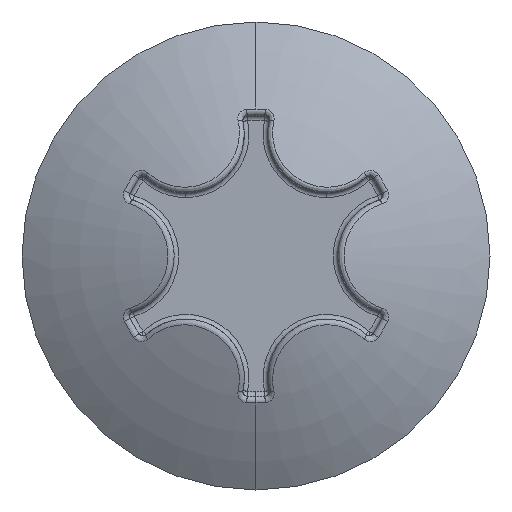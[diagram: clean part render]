
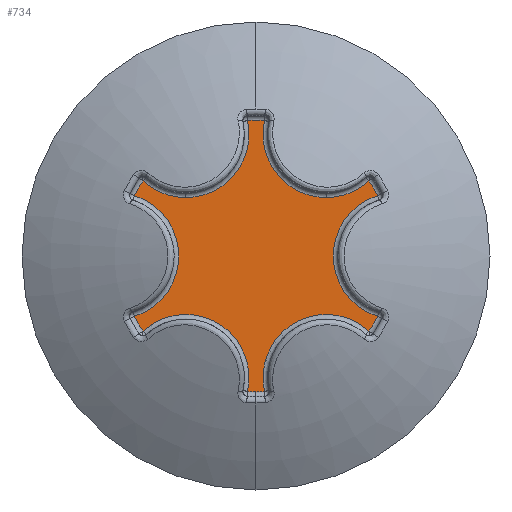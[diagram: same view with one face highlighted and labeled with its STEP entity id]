
A CAD part, left-side view. The second image highlights one B-rep face of the part: STEP entity #734.
In plain terms, the highlighted planar face has unit normal (-1, 0, 0).
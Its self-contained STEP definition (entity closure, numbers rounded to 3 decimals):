
#15 = AXIS2_PLACEMENT_3D ( 'NONE', #1366, #3339, #1662 ) ;
#42 = CIRCLE ( 'NONE', #1055, 1.35 ) ;
#49 = DIRECTION ( 'NONE',  ( 0., 0., -1. ) ) ;
#81 = CIRCLE ( 'NONE', #1164, 2.9 ) ;
#106 = DIRECTION ( 'NONE',  ( 1., 0., 0. ) ) ;
#143 = CARTESIAN_POINT ( 'NONE',  ( 1.5, 3., 0. ) ) ;
#171 = CIRCLE ( 'NONE', #775, 2.9 ) ;
#181 = EDGE_CURVE ( 'NONE', #1066, #1205, #2168, .T. ) ;
#189 = EDGE_LOOP ( 'NONE', ( #1249, #284, #1644, #255, #598, #750, #883, #1913, #312, #3684, #3181, #3588, #3453, #3506, #1455 ) ) ;
#205 = VERTEX_POINT ( 'NONE', #2949 ) ;
#255 = ORIENTED_EDGE ( 'NONE', *, *, #2817, .T. ) ;
#272 = CARTESIAN_POINT ( 'NONE',  ( 1.5, -0.183, -2.894 ) ) ;
#284 = ORIENTED_EDGE ( 'NONE', *, *, #623, .T. ) ;
#312 = ORIENTED_EDGE ( 'NONE', *, *, #1273, .T. ) ;
#326 = VERTEX_POINT ( 'NONE', #1025 ) ;
#336 = VERTEX_POINT ( 'NONE', #1626 ) ;
#380 = DIRECTION ( 'NONE',  ( 0., 0., -1. ) ) ;
#404 = AXIS2_PLACEMENT_3D ( 'NONE', #3561, #2658, #2733 ) ;
#427 = DIRECTION ( 'NONE',  ( 1., 0., 0. ) ) ;
#444 = CARTESIAN_POINT ( 'NONE',  ( 1.5, 0., -2.9 ) ) ;
#489 = AXIS2_PLACEMENT_3D ( 'NONE', #1837, #106, #2121 ) ;
#492 = CARTESIAN_POINT ( 'NONE',  ( 1.5, -2.415, -1.605 ) ) ;
#518 = CIRCLE ( 'NONE', #489, 1.35 ) ;
#520 = CIRCLE ( 'NONE', #2742, 1.35 ) ;
#547 = CARTESIAN_POINT ( 'NONE',  ( 1.5, 1.5, 2.598 ) ) ;
#550 = CARTESIAN_POINT ( 'NONE',  ( 1.5, 1.5, 2.598 ) ) ;
#595 = VERTEX_POINT ( 'NONE', #3652 ) ;
#598 = ORIENTED_EDGE ( 'NONE', *, *, #1831, .T. ) ;
#608 = EDGE_CURVE ( 'NONE', #2486, #595, #2122, .T. ) ;
#623 = EDGE_CURVE ( 'NONE', #1461, #205, #3443, .T. ) ;
#630 = VERTEX_POINT ( 'NONE', #2105 ) ;
#655 = CARTESIAN_POINT ( 'NONE',  ( 1.5, 0., 0. ) ) ;
#711 = DIRECTION ( 'NONE',  ( -1., 0., 0. ) ) ;
#728 = EDGE_CURVE ( 'NONE', #326, #3440, #3349, .T. ) ;
#731 = DIRECTION ( 'NONE',  ( 1., 0., 0. ) ) ;
#734 = ADVANCED_FACE ( 'NONE', ( #2780 ), #2252, .F. ) ;
#750 = ORIENTED_EDGE ( 'NONE', *, *, #1612, .T. ) ;
#775 = AXIS2_PLACEMENT_3D ( 'NONE', #655, #956, #2385 ) ;
#793 = CARTESIAN_POINT ( 'NONE',  ( 1.5, 0., 0. ) ) ;
#802 = AXIS2_PLACEMENT_3D ( 'NONE', #143, #731, #380 ) ;
#817 = CARTESIAN_POINT ( 'NONE',  ( 1.5, -1.5, 2.598 ) ) ;
#850 = DIRECTION ( 'NONE',  ( 0., 0., -1. ) ) ;
#853 = DIRECTION ( 'NONE',  ( 0., 0., -1. ) ) ;
#883 = ORIENTED_EDGE ( 'NONE', *, *, #181, .T. ) ;
#889 = CIRCLE ( 'NONE', #3212, 1.35 ) ;
#937 = CARTESIAN_POINT ( 'NONE',  ( 1.5, -1.5, 1.248 ) ) ;
#956 = DIRECTION ( 'NONE',  ( -1., 0., 0. ) ) ;
#996 = DIRECTION ( 'NONE',  ( 0., 0., -1. ) ) ;
#1016 = DIRECTION ( 'NONE',  ( -1., 0., 0. ) ) ;
#1025 = CARTESIAN_POINT ( 'NONE',  ( 1.5, -0.183, 2.894 ) ) ;
#1055 = AXIS2_PLACEMENT_3D ( 'NONE', #3276, #427, #2748 ) ;
#1066 = VERTEX_POINT ( 'NONE', #272 ) ;
#1071 = CARTESIAN_POINT ( 'NONE',  ( 1.5, 2.598, 1.289 ) ) ;
#1094 = CARTESIAN_POINT ( 'NONE',  ( 1.5, -2.598, 1.289 ) ) ;
#1121 = DIRECTION ( 'NONE',  ( 0., 0., -1. ) ) ;
#1164 = AXIS2_PLACEMENT_3D ( 'NONE', #2707, #1016, #3003 ) ;
#1201 = AXIS2_PLACEMENT_3D ( 'NONE', #2796, #2529, #2215 ) ;
#1205 = VERTEX_POINT ( 'NONE', #492 ) ;
#1249 = ORIENTED_EDGE ( 'NONE', *, *, #1867, .T. ) ;
#1263 = CARTESIAN_POINT ( 'NONE',  ( 1.5, -1.5, -2.598 ) ) ;
#1273 = EDGE_CURVE ( 'NONE', #336, #2486, #42, .T. ) ;
#1366 = CARTESIAN_POINT ( 'NONE',  ( 1.5, -1.5, 2.598 ) ) ;
#1455 = ORIENTED_EDGE ( 'NONE', *, *, #2114, .T. ) ;
#1461 = VERTEX_POINT ( 'NONE', #1071 ) ;
#1463 = CARTESIAN_POINT ( 'NONE',  ( 1.5, 2.415, -1.605 ) ) ;
#1530 = AXIS2_PLACEMENT_3D ( 'NONE', #1263, #2136, #2939 ) ;
#1612 = EDGE_CURVE ( 'NONE', #3271, #1066, #171, .T. ) ;
#1626 = CARTESIAN_POINT ( 'NONE',  ( 1.5, -2.598, -1.289 ) ) ;
#1644 = ORIENTED_EDGE ( 'NONE', *, *, #2735, .T. ) ;
#1661 = CARTESIAN_POINT ( 'NONE',  ( 1.5, 0.183, -2.894 ) ) ;
#1662 = DIRECTION ( 'NONE',  ( 0., 0., -1. ) ) ;
#1762 = VERTEX_POINT ( 'NONE', #937 ) ;
#1779 = AXIS2_PLACEMENT_3D ( 'NONE', #2812, #3043, #2239 ) ;
#1780 = DIRECTION ( 'NONE',  ( -1., 0., 0. ) ) ;
#1831 = EDGE_CURVE ( 'NONE', #2051, #3271, #3430, .T. ) ;
#1837 = CARTESIAN_POINT ( 'NONE',  ( 1.5, 1.5, -2.598 ) ) ;
#1867 = EDGE_CURVE ( 'NONE', #630, #1461, #3337, .T. ) ;
#1913 = ORIENTED_EDGE ( 'NONE', *, *, #2306, .T. ) ;
#1933 = CIRCLE ( 'NONE', #3496, 1.35 ) ;
#2051 = VERTEX_POINT ( 'NONE', #1661 ) ;
#2063 = AXIS2_PLACEMENT_3D ( 'NONE', #793, #3662, #2230 ) ;
#2105 = CARTESIAN_POINT ( 'NONE',  ( 1.5, 2.415, 1.605 ) ) ;
#2114 = EDGE_CURVE ( 'NONE', #2966, #630, #520, .T. ) ;
#2121 = DIRECTION ( 'NONE',  ( 0., 0., -1. ) ) ;
#2122 = CIRCLE ( 'NONE', #404, 2.9 ) ;
#2136 = DIRECTION ( 'NONE',  ( 1., 0., 0. ) ) ;
#2168 = CIRCLE ( 'NONE', #1530, 1.35 ) ;
#2170 = CARTESIAN_POINT ( 'NONE',  ( 1.5, 1.5, 1.248 ) ) ;
#2215 = DIRECTION ( 'NONE',  ( 0., 0., -1. ) ) ;
#2230 = DIRECTION ( 'NONE',  ( 0., 0., -1. ) ) ;
#2239 = DIRECTION ( 'NONE',  ( 0., 0., -1. ) ) ;
#2252 = PLANE ( 'NONE',  #1779 ) ;
#2255 = AXIS2_PLACEMENT_3D ( 'NONE', #3390, #711, #996 ) ;
#2295 = CARTESIAN_POINT ( 'NONE',  ( 1.5, 0.183, 2.894 ) ) ;
#2306 = EDGE_CURVE ( 'NONE', #1205, #336, #81, .T. ) ;
#2385 = DIRECTION ( 'NONE',  ( 0., 0., -1. ) ) ;
#2408 = CIRCLE ( 'NONE', #2482, 2.9 ) ;
#2482 = AXIS2_PLACEMENT_3D ( 'NONE', #3462, #1780, #49 ) ;
#2486 = VERTEX_POINT ( 'NONE', #1094 ) ;
#2529 = DIRECTION ( 'NONE',  ( -1., 0., 0. ) ) ;
#2537 = EDGE_CURVE ( 'NONE', #595, #1762, #1933, .T. ) ;
#2549 = CIRCLE ( 'NONE', #15, 1.35 ) ;
#2558 = DIRECTION ( 'NONE',  ( 1., 0., 0. ) ) ;
#2561 = DIRECTION ( 'NONE',  ( 1., 0., 0. ) ) ;
#2658 = DIRECTION ( 'NONE',  ( -1., 0., 0. ) ) ;
#2697 = VERTEX_POINT ( 'NONE', #1463 ) ;
#2707 = CARTESIAN_POINT ( 'NONE',  ( 1.5, 0., 0. ) ) ;
#2733 = DIRECTION ( 'NONE',  ( 0., 0., -1. ) ) ;
#2735 = EDGE_CURVE ( 'NONE', #205, #2697, #2408, .T. ) ;
#2742 = AXIS2_PLACEMENT_3D ( 'NONE', #550, #2561, #853 ) ;
#2748 = DIRECTION ( 'NONE',  ( 0., 0., -1. ) ) ;
#2780 = FACE_OUTER_BOUND ( 'NONE', #189, .T. ) ;
#2796 = CARTESIAN_POINT ( 'NONE',  ( 1.5, 0., 0. ) ) ;
#2812 = CARTESIAN_POINT ( 'NONE',  ( 1.5, -0.181, -6.741 ) ) ;
#2813 = DIRECTION ( 'NONE',  ( 1., 0., 0. ) ) ;
#2817 = EDGE_CURVE ( 'NONE', #2697, #2051, #518, .T. ) ;
#2939 = DIRECTION ( 'NONE',  ( 0., 0., -1. ) ) ;
#2949 = CARTESIAN_POINT ( 'NONE',  ( 1.5, 2.598, -1.289 ) ) ;
#2966 = VERTEX_POINT ( 'NONE', #2170 ) ;
#3003 = DIRECTION ( 'NONE',  ( 0., 0., -1. ) ) ;
#3043 = DIRECTION ( 'NONE',  ( 1., 0., 0. ) ) ;
#3181 = ORIENTED_EDGE ( 'NONE', *, *, #2537, .T. ) ;
#3212 = AXIS2_PLACEMENT_3D ( 'NONE', #547, #2558, #850 ) ;
#3271 = VERTEX_POINT ( 'NONE', #444 ) ;
#3276 = CARTESIAN_POINT ( 'NONE',  ( 1.5, -3., 0. ) ) ;
#3337 = CIRCLE ( 'NONE', #2255, 2.9 ) ;
#3339 = DIRECTION ( 'NONE',  ( 1., 0., 0. ) ) ;
#3349 = CIRCLE ( 'NONE', #1201, 2.9 ) ;
#3390 = CARTESIAN_POINT ( 'NONE',  ( 1.5, 0., 0. ) ) ;
#3413 = EDGE_CURVE ( 'NONE', #3440, #2966, #889, .T. ) ;
#3430 = CIRCLE ( 'NONE', #2063, 2.9 ) ;
#3440 = VERTEX_POINT ( 'NONE', #2295 ) ;
#3443 = CIRCLE ( 'NONE', #802, 1.35 ) ;
#3453 = ORIENTED_EDGE ( 'NONE', *, *, #728, .T. ) ;
#3462 = CARTESIAN_POINT ( 'NONE',  ( 1.5, 0., 0. ) ) ;
#3496 = AXIS2_PLACEMENT_3D ( 'NONE', #817, #2813, #1121 ) ;
#3506 = ORIENTED_EDGE ( 'NONE', *, *, #3413, .T. ) ;
#3561 = CARTESIAN_POINT ( 'NONE',  ( 1.5, 0., 0. ) ) ;
#3588 = ORIENTED_EDGE ( 'NONE', *, *, #3704, .T. ) ;
#3652 = CARTESIAN_POINT ( 'NONE',  ( 1.5, -2.415, 1.605 ) ) ;
#3662 = DIRECTION ( 'NONE',  ( -1., 0., 0. ) ) ;
#3684 = ORIENTED_EDGE ( 'NONE', *, *, #608, .T. ) ;
#3704 = EDGE_CURVE ( 'NONE', #1762, #326, #2549, .T. ) ;
